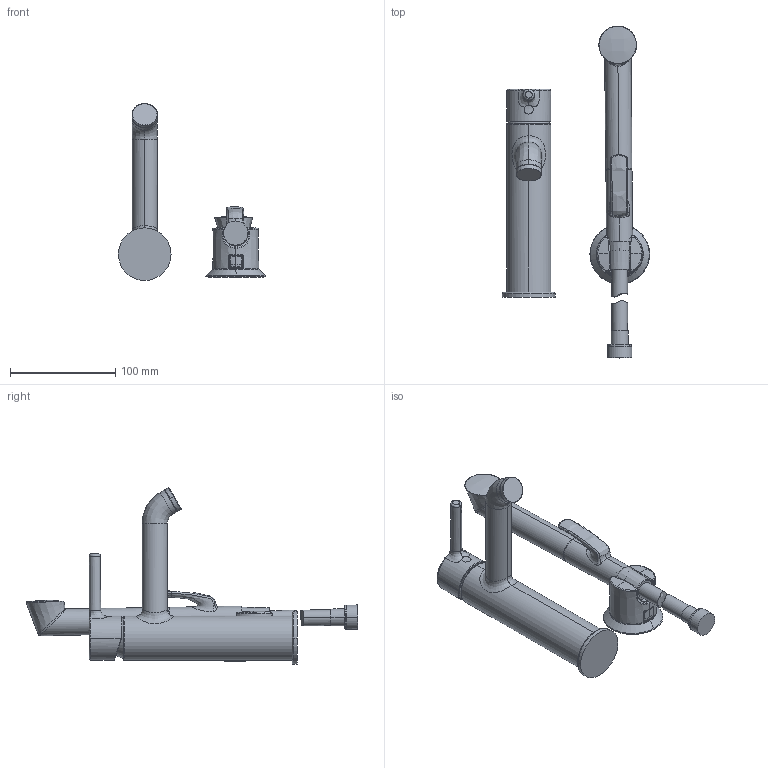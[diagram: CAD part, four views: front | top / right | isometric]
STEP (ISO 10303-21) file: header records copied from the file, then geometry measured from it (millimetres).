
FILE_DESCRIPTION (( 'STEP AP203' ), '1' );
FILE_NAME ('2606FH-33(2023).STEP', '2023-05-17T11:06:03', ( '' ), ( '' ), 'SwSTEP 2.0', 'SolidWorks 2016', '' );
FILE_SCHEMA (( 'CONFIG_CONTROL_DESIGN' ));
Products named in the file (1): 2606FH-33(2023)
Bounding box: 139.82 x 315.43 x 168.06 mm (x, y, z)
Surface area: 90573.8 mm2 (no closed solid volume)
Topology: 0 solids, 11 shells, 230 faces, 546 edges, 345 vertices
Faces by surface type: bspline 119, cylinder 39, plane 36, torus 22, cone 10, sphere 4
Entity records: 32007 total; most frequent: CARTESIAN_POINT 27540, ORIENTED_EDGE 1090, DIRECTION 654, EDGE_CURVE 546, VERTEX_POINT 345, AXIS2_PLACEMENT_3D 291, B_SPLINE_CURVE_WITH_KNOTS 277, EDGE_LOOP 238
